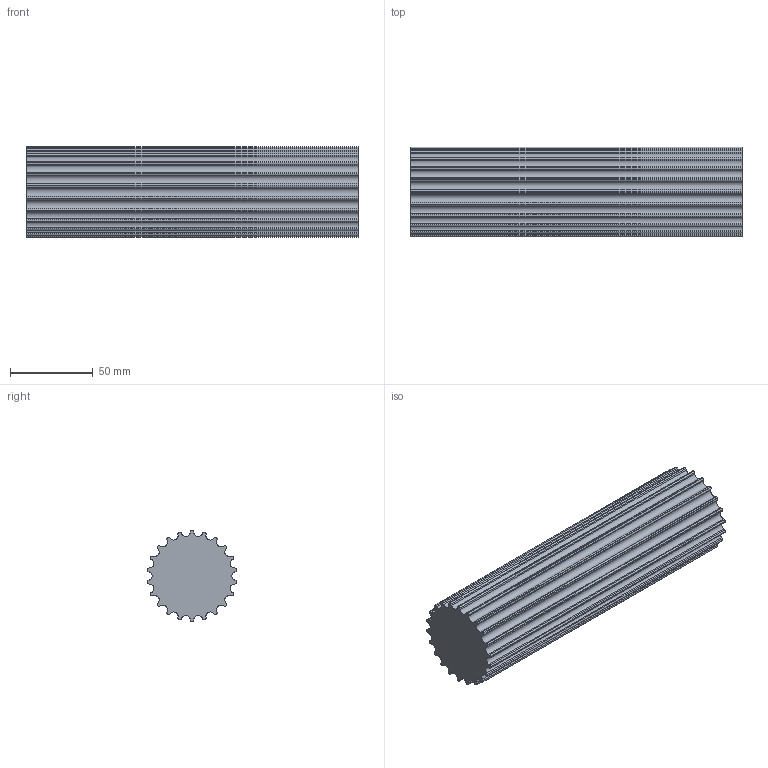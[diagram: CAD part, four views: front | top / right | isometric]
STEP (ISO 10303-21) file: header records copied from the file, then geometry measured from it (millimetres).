
FILE_DESCRIPTION( ( 'STEP AP203' ), '1' );
FILE_NAME( 'C:/Users/Stangenbergd/Desktop/17492201.stp', '2020-08-15T09:47:36', ( 'License CC BY-ND 4.0' ), ( 'CADENAS' ), ' ', 'PARTsolutions', ' ' );
FILE_SCHEMA( ( 'CONFIG_CONTROL_DESIGN' ) );
Length unit declared in the file: millimetre
Products named in the file (1): _17492201
Bounding box: 200 x 54.16 x 54.65 mm (x, y, z)
Volume: 403687.8 mm3; surface area: 51450.5 mm2
Topology: 1 solids, 1 shells, 134 faces, 396 edges, 264 vertices
Faces by surface type: cylinder 88, plane 46
Entity records: 4600 total; most frequent: DIRECTION 842, CARTESIAN_POINT 795, ORIENTED_EDGE 792, EDGE_CURVE 396, AXIS2_PLACEMENT_3D 311, VERTEX_POINT 264, LINE 220, VECTOR 220
